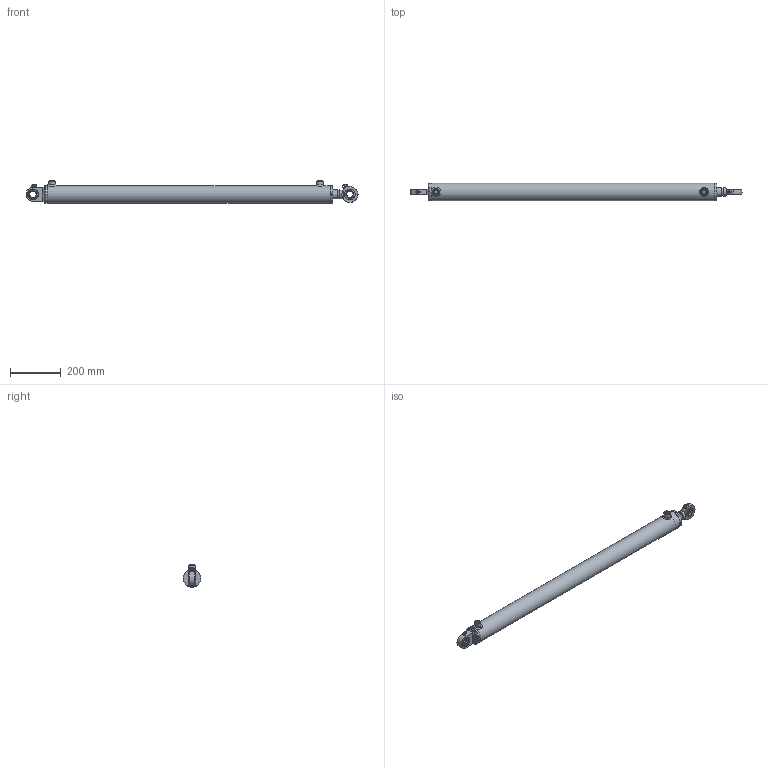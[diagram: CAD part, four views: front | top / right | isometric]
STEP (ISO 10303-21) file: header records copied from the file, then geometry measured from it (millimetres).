
FILE_DESCRIPTION( ( 'Unknown' ), '1' );
FILE_NAME( 'E:/LIBRERIA_3d/CILINDRI/HMB/HMB3351000.stp', 'Unknown', ( 'Unknown' ), ( 'Unknown' ), 'PSStep 17.0.49', 'Unknown', ' ' );
FILE_SCHEMA( ( 'AUTOMOTIVE_DESIGN { 1 0 10303 214 1 1 1 1 }' ) );
Length unit declared in the file: millimetre
Products named in the file (37): CSTSF025N0; An00006001; CSTS025N_CORPO; CSAI002042; CSAI002042-oa0; CG07006035; STL3501000-oa7; Saldatura d'angolo 1-oa5; FTM3501000-oa6; CBSC220600; CT00060020; CSTSF025C0; tsc25c_CORPO; AN00006001; HM03351000; Saldatura con preparazione 1-oa3; Saldatura d'angolo 1-oa4; CF00060070; CBS0600000; CDA0002015; APG0600000; SBL3531000; CSTS025N00; CGE0250000; APGR013000; CSTS025C00; cge0250000; Assem1; Saldatura d'angolo 1-oa1; Saldatura d'angolo 2-oa2
Assembly tree (32 placements, depth 4):
  Saldatura d'angolo 1-oa5
  Saldatura d'angolo 1-oa5
  Saldatura d'angolo 1-oa4
  Saldatura d'angolo 1-oa4
  Assem1
    APGR013000  x2
    CSTS025N00
      CGE0250000
      APGR013000
      CSTSF025N0
        An00006001
        CSTS025N_CORPO
        CSAI002042
        CSAI002042-oa0
    CSTS025C00
      cge0250000
      APGR013000
      CSTSF025C0
        tsc25c_CORPO
        AN00006001
    HM03351000
      Saldatura con preparazione 1-oa3
      Saldatura con preparazione 1-oa3
      CF00060070
      CBS0600000
      CDA0002015
      APG0600000  x2
      SBL3531000
      CT00060020
        CT00060020
      STL3501000-oa7
        FTM3501000-oa6
        CBSC220600
      CG07006035
        CG07006035
Bounding box: 1309.5 x 70 x 89 mm (x, y, z)
Volume: 2585808 mm3; surface area: 711550.7 mm2
Topology: 32 solids, 32 shells, 390 faces, 803 edges, 508 vertices
Faces by surface type: plane 156, cylinder 99, cone 46, torus 46, bspline 36, sphere 7
Full cylindrical faces by diameter (mm): 2 x4, 4 x1, 4.25 x1, 5 x12, 6 x4, 7 x2, 8 x4, 9 x4, 14.95 x2, 16 x2, 16.6 x2, 19.4 x1, 20 x5, 22 x2, 24.5 x1, 25 x4, 26 x2, 30 x1, 33.5 x1, 35 x4, 37 x1, 38 x1, 40 x2, 42 x8, 43.6 x1, 44 x1, 45 x1, 55 x1, 55.39 x2, 58.65 x2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
Entity records: 14638 total; most frequent: CARTESIAN_POINT 5678, DIRECTION 1360, ORIENTED_EDGE 882, AXIS2_PLACEMENT_3D 617, EDGE_LOOP 592, FACE_OUTER_BOUND 466, EDGE_CURVE 441, VERTEX_POINT 377
